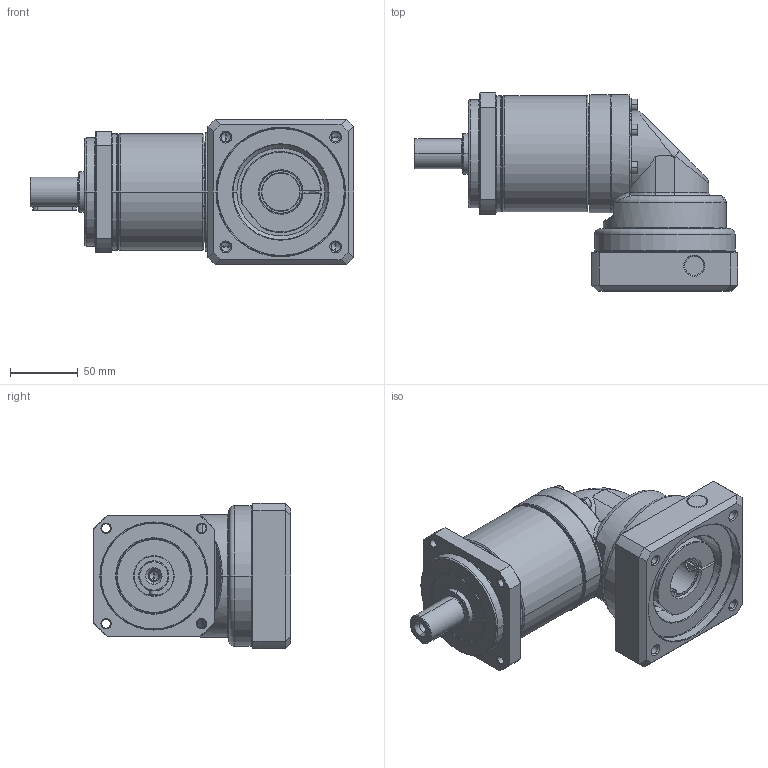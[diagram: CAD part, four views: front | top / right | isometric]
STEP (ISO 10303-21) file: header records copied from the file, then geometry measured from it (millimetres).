
FILE_DESCRIPTION((''),'2;1');
FILE_NAME('PA2R-090_2ST_28-P0411600101_ASM','2016-05-16T',('d01943'),(''),'PRO/ENGINEER BY PARAMETRIC TECHNOLOGY CORPORATION, 2008410','PRO/ENGINEER BY PARAMETRIC TECHNOLOGY CORPORATION, 2008410','');
FILE_SCHEMA(('CONFIG_CONTROL_DESIGN'));
Length unit declared in the file: millimetre
Products named in the file (12): P1327310001; P0251300001; P0350300001; P1349300001; P1017300001; P0713303001; P0503600008; P1350300301; P0411600101; P1702500001; 2111BA05025; PA2R-090_2ST_28-P0411600101_ASM
Assembly tree (16 placements, depth 2):
  PA2R-090_2ST_28-P0411600101_ASM
    P1327310001
    P0251300001
    P0350300001
    P1349300001
    P1017300001
    P0713303001
    P0503600008
    P1350300301
    P0411600101
    P1702500001
    2111BA05025  x6
Bounding box: 239.5 x 146.5 x 108 mm (x, y, z)
Volume: 955821.9 mm3; surface area: 234278 mm2
Topology: 16 solids, 16 shells, 807 faces, 1770 edges, 1024 vertices
Faces by surface type: cylinder 244, cone 230, plane 203, torus 98, bspline 32
Entity records: 23540 total; most frequent: CARTESIAN_POINT 9113, DIRECTION 3197, ORIENTED_EDGE 2788, EDGE_CURVE 1394, AXIS2_PLACEMENT_3D 1345, VERTEX_POINT 824, EDGE_LOOP 730, CIRCLE 707
